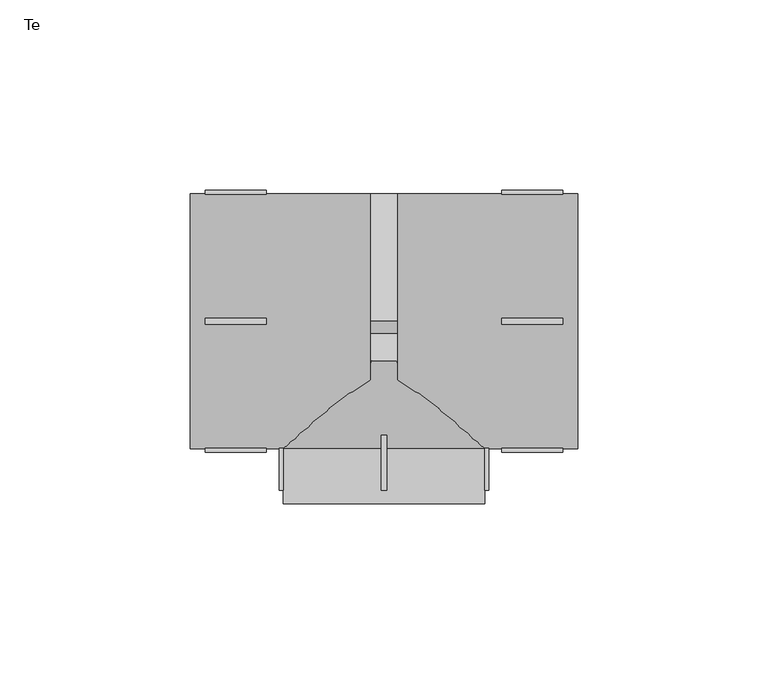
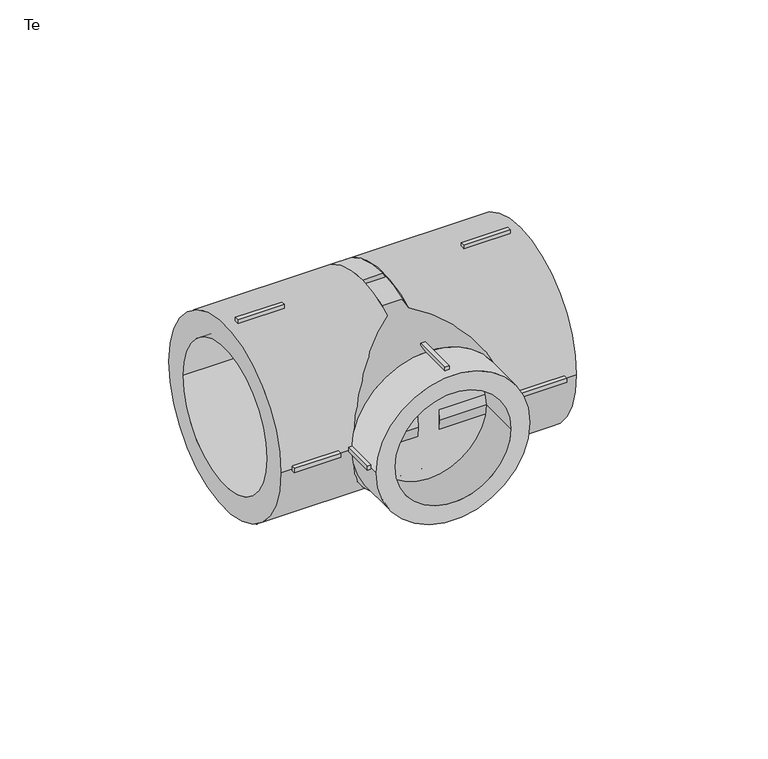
"""IFC4 building model written with IfcOpenShell, lengths in millimetres: pipe fitting geometry, EGB_VASEN_ PPR_Te WXR300_Te reducida WXR310 : Te."""

from ifc_helpers import new_model, si_unit, point, frame, origin, origin_2d, place, context, project, spatial, polyline, circle_curve, trimmed, segment, composite_curve, outline, extrude, source, transform, mapped, element, save
from ifc_brep_helpers import plane_surface, revolved_surface, advanced_brep


def te_984ddfb5(model_context):
    return source(origin(), model_context, "Body", "SolidModel", [
        extrude(outline(polyline([(-0.75, -30.0), (0.75, -30.0), (0.75, -44.4), (-0.75, -44.4), (-0.75, -30.0)])), frame((0.0, 0.0, 25.5), z_axis=(0.0, 0.0, 1.0), x_axis=(1.0, 0.0, 0.0)), (0.0, 0.0, 1.0), 2.0),
        extrude(outline(polyline([(-0.75, -30.0), (0.75, -30.0), (0.75, -44.4), (-0.75, -44.4), (-0.75, -30.0)])), frame((0.0, 0.0, -27.5), z_axis=(0.0, 0.0, 1.0), x_axis=(1.0, 0.0, 0.0)), (0.0, 0.0, 1.0), 2.0),
        extrude(outline(polyline([(25.5, -30.0), (27.5, -30.0), (27.5, -44.4), (25.5, -44.4), (25.5, -30.0)])), frame((0.0, 0.0, -0.75), z_axis=(0.0, 0.0, 1.0), x_axis=(1.0, 0.0, 0.0)), (0.0, 0.0, 1.0), 1.5),
        extrude(outline(polyline([(-27.5, -30.0), (-25.5, -30.0), (-25.5, -44.4), (-27.5, -44.4), (-27.5, -30.0)])), frame((0.0, 0.0, -0.75), z_axis=(0.0, 0.0, 1.0), x_axis=(1.0, 0.0, 0.0)), (0.0, 0.0, 1.0), 1.5),
        extrude(outline(polyline([(31.0, -0.75), (31.0, 0.75), (47.0, 0.75), (47.0, -0.75), (31.0, -0.75)])), frame((0.0, 0.0, 32.5), z_axis=(0.0, 0.0, 1.0), x_axis=(1.0, 0.0, 0.0)), (0.0, 0.0, 1.0), 2.0),
        extrude(outline(polyline([(31.0, -0.75), (31.0, 0.75), (47.0, 0.75), (47.0, -0.75), (31.0, -0.75)])), frame((0.0, 0.0, -34.5), z_axis=(0.0, 0.0, 1.0), x_axis=(1.0, 0.0, 0.0)), (0.0, 0.0, 1.0), 2.0),
        extrude(outline(polyline([(31.0, 32.5), (31.0, 34.5), (47.0, 34.5), (47.0, 32.5), (31.0, 32.5)])), frame((0.0, 0.0, -0.75), z_axis=(0.0, 0.0, 1.0), x_axis=(1.0, 0.0, 0.0)), (0.0, 0.0, 1.0), 1.5),
        extrude(outline(polyline([(31.0, -34.5), (31.0, -32.5), (47.0, -32.5), (47.0, -34.5), (31.0, -34.5)])), frame((0.0, 0.0, -0.75), z_axis=(0.0, 0.0, 1.0), x_axis=(1.0, 0.0, 0.0)), (0.0, 0.0, 1.0), 1.5),
        extrude(outline(polyline([(-31.0, 0.75), (-31.0, -0.75), (-47.0, -0.75), (-47.0, 0.75), (-31.0, 0.75)])), frame((0.0, 0.0, 32.5), z_axis=(0.0, 0.0, 1.0), x_axis=(1.0, 0.0, 0.0)), (0.0, 0.0, 1.0), 2.0),
        extrude(outline(polyline([(-31.0, 0.75), (-31.0, -0.75), (-47.0, -0.75), (-47.0, 0.75), (-31.0, 0.75)])), frame((0.0, 0.0, -34.5), z_axis=(0.0, 0.0, 1.0), x_axis=(1.0, 0.0, 0.0)), (0.0, 0.0, 1.0), 2.0),
        extrude(outline(polyline([(-31.0, 34.5), (-31.0, 32.5), (-47.0, 32.5), (-47.0, 34.5), (-31.0, 34.5)])), frame((0.0, 0.0, -0.75), z_axis=(0.0, 0.0, 1.0), x_axis=(1.0, 0.0, 0.0)), (0.0, 0.0, 1.0), 1.5),
        extrude(outline(polyline([(-31.0, -32.5), (-31.0, -34.5), (-47.0, -34.5), (-47.0, -32.5), (-31.0, -32.5)])), frame((0.0, 0.0, -0.75), z_axis=(0.0, 0.0, 1.0), x_axis=(1.0, 0.0, 0.0)), (0.0, 0.0, 1.0), 1.5),
        extrude(outline(composite_curve([segment(trimmed(circle_curve(origin_2d(), 26.5), [point((0.0, 26.5))], [point((0.0, -26.5))], False, "CARTESIAN"), True, "CONTINUOUS"), segment(trimmed(circle_curve(origin_2d(), 26.5), [point((0.0, -26.5))], [point((0.0, 26.5))], False, "CARTESIAN"), True, "CONTINUOUS")], self_intersect=False), holes=[composite_curve([segment(trimmed(circle_curve(origin_2d(), 20.0), [point((0.0, 20.0))], [point((0.0, -20.0))], True, "CARTESIAN"), True, "CONTINUOUS"), segment(trimmed(circle_curve(origin_2d(), 20.0), [point((0.0, -20.0))], [point((0.0, 20.0))], True, "CARTESIAN"), True, "CONTINUOUS")], self_intersect=False)]), frame((0.0, -48.0, 0.0), z_axis=(0.0, 1.0, 0.0), x_axis=(0.0, 0.0, 1.0)), (0.0, 0.0, 1.0), 14.5),
        extrude(outline(composite_curve([segment(trimmed(circle_curve(origin_2d(), 33.5), [point((-33.5, 0.0))], [point((33.5, 0.0))], False, "CARTESIAN"), True, "CONTINUOUS"), segment(trimmed(circle_curve(origin_2d(), 33.5), [point((33.5, 0.0))], [point((-33.5, 0.0))], False, "CARTESIAN"), True, "CONTINUOUS")], self_intersect=False), holes=[composite_curve([segment(trimmed(circle_curve(origin_2d(), 25.0), [point((-25.0, 0.0))], [point((25.0, 0.0))], True, "CARTESIAN"), True, "CONTINUOUS"), segment(trimmed(circle_curve(origin_2d(), 25.0), [point((25.0, 0.0))], [point((-25.0, 0.0))], True, "CARTESIAN"), True, "CONTINUOUS")], self_intersect=False)]), frame((3.68, 0.0, 0.0), z_axis=(1.0, 0.0, 0.0), x_axis=(0.0, 1.0, 0.0)), (0.0, 0.0, 1.0), 47.32),
        extrude(outline(composite_curve([segment(trimmed(circle_curve(origin_2d(), 33.5), [point((-33.5, 0.0))], [point((33.5, 0.0))], False, "CARTESIAN"), True, "CONTINUOUS"), segment(trimmed(circle_curve(origin_2d(), 33.5), [point((33.5, 0.0))], [point((-33.5, 0.0))], False, "CARTESIAN"), True, "CONTINUOUS")], self_intersect=False), holes=[composite_curve([segment(trimmed(circle_curve(origin_2d(), 25.0), [point((-25.0, 0.0))], [point((25.0, 0.0))], True, "CARTESIAN"), True, "CONTINUOUS"), segment(trimmed(circle_curve(origin_2d(), 25.0), [point((25.0, 0.0))], [point((-25.0, 0.0))], True, "CARTESIAN"), True, "CONTINUOUS")], self_intersect=False)]), frame((-51.0, 0.0, 0.0), z_axis=(1.0, 0.0, 0.0), x_axis=(0.0, 1.0, 0.0)), (0.0, 0.0, 1.0), 47.32),
        advanced_brep(
        [(33.5, 0.0, 0.0), (-33.5, 0.0, 0.0), (26.5, -33.5, 0.0), (-26.5, -33.5, 0.0)],
        [
            (0, 1, circle_curve(frame((0.0, 0.0, 0.0), z_axis=(0.0, 1.0, 0.0), x_axis=(1.0, 0.0, 0.0)), 33.5)),
            (1, 0, circle_curve(frame((0.0, 0.0, 0.0), z_axis=(0.0, 1.0, 0.0), x_axis=(-1.0, 0.0, 0.0)), 33.5)),
            (2, 3, circle_curve(frame((0.0, -33.5, 0.0), z_axis=(0.0, -1.0, 0.0), x_axis=(-1.0, 0.0, 0.0)), 26.5)),
            (3, 2, circle_curve(frame((0.0, -33.5, 0.0), z_axis=(0.0, -1.0, 0.0), x_axis=(1.0, 0.0, 0.0)), 26.5)),
            (3, 1),
            (0, 2),
        ],
        [
            plane_surface(frame((0.0, 0.0, 0.0), z_axis=(0.0, 1.0, 0.0), x_axis=(0.0, 0.0, -1.0))),
            plane_surface(frame((0.0, -33.5, 0.0), z_axis=(0.0, -1.0, 0.0), x_axis=(0.0, 0.0, -1.0))),
            revolved_surface(polyline([(-26.500000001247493, -33.5, 0.0), (-33.5, 0.0, 0.0)]), (0.0, -160.3214286, 0.0), (0.0, 1.0, 0.0)),
            revolved_surface(polyline([(26.500000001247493, -33.5, 0.0), (33.5, 0.0, 0.0)]), (0.0, -160.3214286, 0.0), (0.0, 1.0, 0.0)),
        ],
        [
            (0, [[1, 2]]),
            (1, [[3, 4]]),
            (2, [[-4, 5, -1, 6]]),
            (3, [[-3, -6, -2, -5]]),
        ],
    ),
        extrude(outline(composite_curve([segment(trimmed(circle_curve(origin_2d(), 33.5), [point((-33.5, 0.0))], [point((33.5, 0.0))], False, "CARTESIAN"), True, "CONTINUOUS"), segment(trimmed(circle_curve(origin_2d(), 33.5), [point((33.5, 0.0))], [point((-33.5, 0.0))], False, "CARTESIAN"), True, "CONTINUOUS")], self_intersect=False)), frame((-3.68, 0.0, 0.0), z_axis=(1.0, 0.0, 0.0), x_axis=(0.0, 1.0, 0.0)), (0.0, 0.0, 1.0), 7.36),
    ])


if __name__ == "__main__":
    model = new_model("IFC4")
    model_context = context("Model", 3, world=origin())
    ifc_project = project(units=[si_unit("LENGTHUNIT", "METRE", prefix="MILLI")], contexts=[model_context])
    site = spatial("IfcSite", under=ifc_project)
    building = spatial("IfcBuilding", under=site)
    placement = place(None, origin())
    te_shape = te_984ddfb5(model_context)
    element("IfcPipeFitting", 1, ObjectType="EGB_VASEN_ PPR_Te WXR300_Te reducida WXR310 : Te", at=placement, inside=building, context=model_context, shape_type="MappedRepresentation", body=[
        mapped(te_shape, transform((0.0, 0.0, 0.0), x_axis=(1.0, 0.0, 0.0), y_axis=(0.0, 1.0, 0.0), z_axis=(0.0, 0.0, 1.0))),
    ])
    save(model, "model.ifc")
